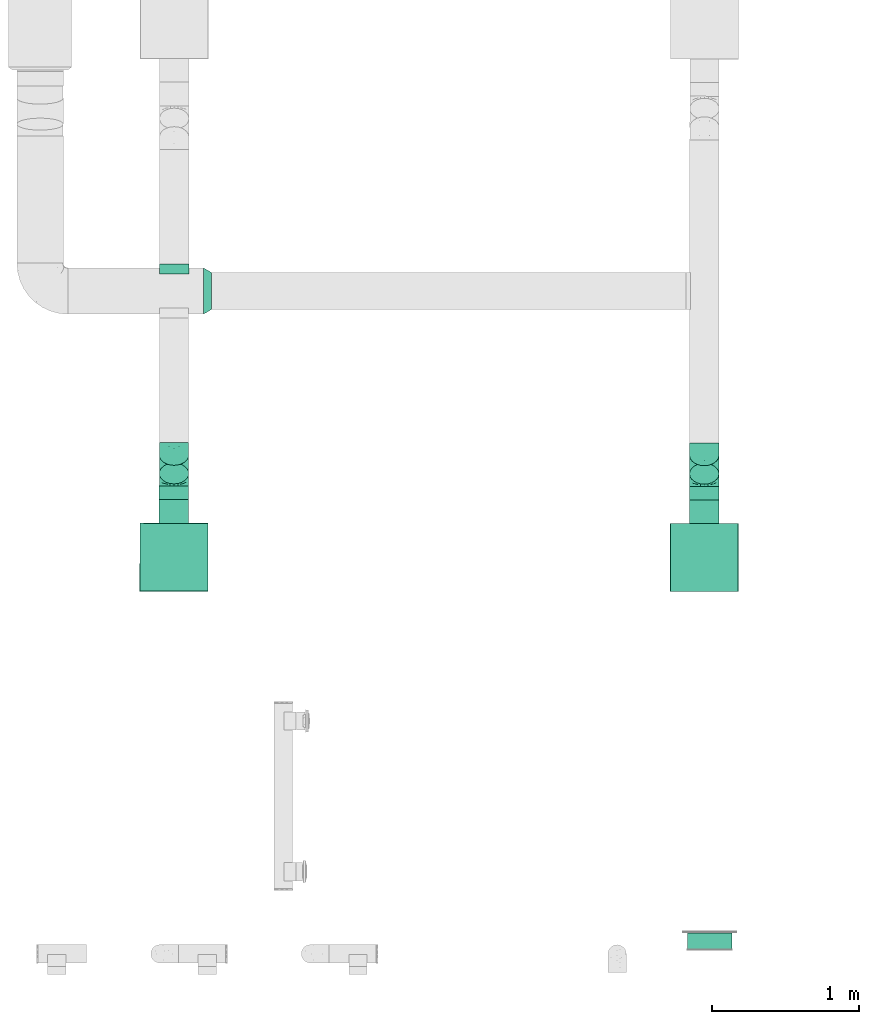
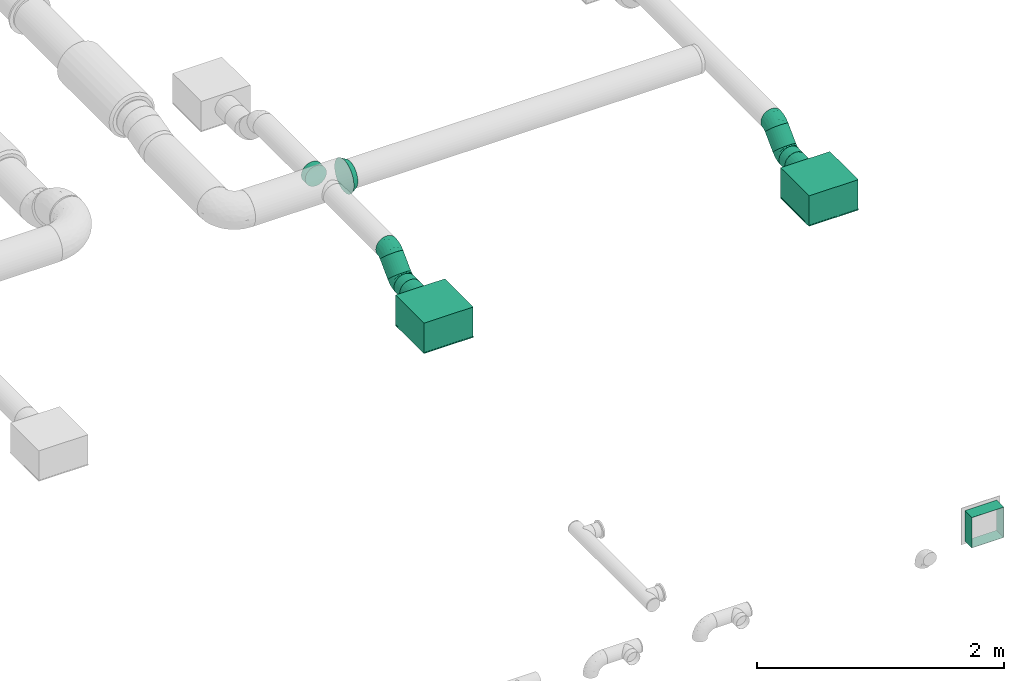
# One storey, part 14 of 63: 6 flow fittings, 5 flow segments, 2 flow terminals.
"""IFC2X3 building model written with IfcOpenShell, lengths in millimetres."""

from ifc_helpers import new_model, entity, si_unit, converted_unit, derived_unit, direction, frame, origin_with_axes, origin_2d_with_axis, place, context, subcontext, project, spatial, hollow_rectangle, hollow_circle, extrude, open_shell, surface_model, source, transform, mapped, type_object, element, save


model = new_model("IFC2X3")

# Units and contexts
model_context = context("Model", 3, precision=0.01, world=frame((0.0, 4.29681676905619e-09, 0.0)), true_north=direction((4.01073788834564e-13, 1.0)))
plan_context = context("Plan", 3, precision=0.01, world=frame((0.0, 4.29681676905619e-09, 0.0)), true_north=direction((4.01073788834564e-13, 1.0)))
body_context = subcontext(model_context, "Body", "Model", "MODEL_VIEW")
ifc_project = project(units=[converted_unit("PLANEANGLEUNIT", "DEGREE", entity("IfcPositiveLengthMeasure", 0.0174532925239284), si_unit("PLANEANGLEUNIT", "RADIAN"), dimensions=[0, 0, 0, 0, 0, 0, 0]), si_unit("AREAUNIT", "SQUARE_METRE"), si_unit("LENGTHUNIT", "METRE", prefix="MILLI"), si_unit("MASSUNIT", "GRAM", prefix="KILO"), si_unit("POWERUNIT", "WATT"), si_unit("PRESSUREUNIT", "PASCAL"), si_unit("FORCEUNIT", "NEWTON", prefix="KILO"), si_unit("ELECTRICVOLTAGEUNIT", "VOLT"), si_unit("ELECTRICCURRENTUNIT", "AMPERE"), si_unit("THERMODYNAMICTEMPERATUREUNIT", "DEGREE_CELSIUS"), si_unit("TIMEUNIT", "SECOND"), si_unit("VOLUMEUNIT", "CUBIC_METRE"), derived_unit("LINEARVELOCITYUNIT", [(si_unit("LENGTHUNIT", "METRE"), 1), (si_unit("TIMEUNIT", "SECOND"), -1)]), derived_unit("VOLUMETRICFLOWRATEUNIT", [(si_unit("VOLUMEUNIT", "CUBIC_METRE"), 1), (si_unit("TIMEUNIT", "SECOND"), -1)]), derived_unit("THERMALTRANSMITTANCEUNIT", [(si_unit("POWERUNIT", "WATT"), 1), (si_unit("THERMODYNAMICTEMPERATUREUNIT", "KELVIN"), -1), (si_unit("AREAUNIT", "SQUARE_METRE"), -1)]), derived_unit("SOUNDPRESSUREUNIT", [(si_unit("PRESSUREUNIT", "PASCAL"), 1)])], contexts=[model_context, plan_context])

# Site, building, storey
site_placement = place(None, frame((0.0, -4.29681676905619e-09, 0.0), z_axis=(0.0, 0.0, 1.0), x_axis=(1.0, 0.0, 0.0)))
site = spatial("IfcSite", under=ifc_project, at=site_placement, CompositionType="ELEMENT")
building_placement = place(site_placement, frame((0.0, 4.29681676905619e-09, 0.0), z_axis=(0.0, 0.0, 1.0), x_axis=(1.0, 0.0, 0.0)))
building = spatial("IfcBuilding", under=site, at=building_placement, Name="mc-building", CompositionType="ELEMENT")
storey_placement = place(building_placement, frame((0.0, 0.0, 210900.0), z_axis=(0.0, 0.0, 1.0), x_axis=(1.0, 0.0, 0.0)))
storey = spatial("IfcBuildingStorey", under=building, at=storey_placement, Name="Nivå F", CompositionType="ELEMENT", Elevation=210900.0)

# Flow fittings
duct_fitting_type_1 = type_object("IfcDuctFittingType", Name="magicirc_reduction_001", PredefinedType="TRANSITION")
shared_shape_1 = source(origin_with_axes(), body_context, "Body", "SurfaceModel", [
    surface_model("IfcShellBasedSurfaceModel", [(0.0, 78.75, 136.39901), (0.0, 157.5, 0.0), (0.0, 40.764, 152.13332), (0.0, -78.75, 136.39901), (0.0, -152.13332, -40.764), (0.0, -111.36932, 111.36932), (0.0, -136.39901, 78.75), (0.0, -152.13332, 40.764), (0.0, -157.5, 0.0), (0.0, 152.13332, -40.764), (0.0, 136.39901, -78.75), (0.0, 0.0, -157.5), (0.0, 111.36932, -111.36932), (0.0, 78.75, -136.39901), (0.0, 40.764, -152.13332), (0.0, -136.39901, -78.75), (0.0, -78.75, -136.39901), (0.0, -111.36932, -111.36932), (0.0, -40.764, -152.13332), (0.0, 0.0, 157.5), (56.29165, 38.62713, 118.88206), (56.29165, -38.62713, 118.88206), (56.29165, -73.47315, 101.12712), (56.29165, -101.12712, 73.47315), (56.29165, -118.88206, 38.62713), (56.29165, -125.0, 0.0), (56.29165, 0.0, 125.0), (56.29165, 118.88206, -38.62713), (56.29165, 73.47315, 101.12712), (56.29165, 101.12712, 73.47315), (56.29165, 118.88206, 38.62713), (56.29165, -118.88206, -38.62713), (56.29165, -101.12712, -73.47315), (56.29165, 0.0, -125.0), (56.29165, -73.47315, -101.12712), (56.29165, -38.62713, -118.88206), (56.29165, 125.0, 0.0), (56.29165, 73.47315, -101.12712), (56.29165, 101.12712, -73.47315), (56.29165, 38.62713, -118.88206), (0.0, 136.39901, 78.75), (0.0, 111.36932, 111.36932), (0.0, -40.764, 152.13332), (0.0, 152.13332, 40.764)], [open_shell([[[0, 1, 2]], [[3, 4, 5]], [[6, 5, 4]], [[6, 4, 7]], [[7, 4, 8]], [[1, 9, 10]], [[11, 12, 13]], [[14, 11, 13]], [[15, 16, 17]], [[16, 11, 18]], [[1, 4, 19]], [[20, 21, 22]], [[23, 24, 25]], [[23, 25, 22]], [[20, 22, 25]], [[26, 21, 20]], [[20, 27, 28]], [[28, 27, 29]], [[27, 30, 29]], [[25, 27, 20]], [[31, 32, 33]], [[34, 35, 33]], [[34, 33, 32]], [[33, 27, 25]], [[30, 27, 36]], [[33, 37, 38]], [[38, 27, 33]], [[37, 33, 39]], [[25, 31, 33]], [[1, 19, 2]], [[40, 1, 41]], [[41, 1, 0]], [[5, 19, 4]], [[19, 5, 3]], [[3, 42, 19]], [[5, 4, 6]], [[8, 7, 4]], [[1, 40, 43]], [[1, 10, 14]], [[13, 14, 10]], [[13, 10, 12]], [[1, 14, 4]], [[14, 17, 15]], [[15, 4, 14]], [[14, 16, 17]], [[18, 16, 14]], [[11, 18, 14]], [[35, 34, 16]], [[33, 35, 18]], [[18, 11, 33]], [[16, 18, 35]], [[34, 17, 16]], [[31, 25, 4]], [[32, 31, 15]], [[15, 17, 32]], [[4, 15, 31]], [[25, 8, 4]], [[32, 17, 34]], [[27, 38, 10]], [[36, 27, 9]], [[9, 1, 36]], [[10, 9, 27]], [[38, 12, 10]], [[39, 33, 14]], [[37, 39, 13]], [[13, 12, 37]], [[14, 13, 39]], [[33, 11, 14]], [[37, 12, 38]], [[20, 28, 0]], [[26, 20, 2]], [[2, 19, 26]], [[0, 2, 20]], [[28, 41, 0]], [[30, 36, 43]], [[29, 30, 40]], [[40, 41, 29]], [[43, 40, 30]], [[36, 1, 43]], [[29, 41, 28]], [[24, 23, 6]], [[25, 24, 7]], [[7, 8, 25]], [[6, 7, 24]], [[23, 5, 6]], [[21, 26, 42]], [[22, 21, 3]], [[3, 5, 22]], [[42, 3, 21]], [[26, 19, 42]], [[22, 5, 23]], [[42, 19, 2]], [[0, 42, 2]], [[0, 41, 1]], [[0, 1, 42]], [[42, 4, 3]], [[11, 1, 9]], [[10, 11, 9]], [[12, 11, 10]], [[11, 15, 4]], [[11, 16, 15]], [[4, 1, 11]], [[1, 4, 42]], [[21, 22, 25]], [[21, 25, 26]], [[20, 26, 28]], [[26, 29, 28]], [[30, 29, 27]], [[27, 29, 26]], [[26, 25, 35]], [[31, 32, 34]], [[35, 27, 26]], [[35, 31, 34]], [[39, 35, 33]], [[35, 38, 27]], [[35, 37, 38]], [[39, 37, 35]], [[25, 31, 35]], [[25, 7, 8]], [[7, 24, 6]], [[19, 42, 26]], [[3, 21, 42]], [[26, 2, 19]], [[2, 20, 0]], [[1, 43, 36]], [[40, 30, 43]], [[36, 9, 1]], [[9, 27, 10]], [[11, 14, 33]], [[13, 39, 14]], [[33, 18, 11]], [[18, 35, 16]], [[8, 4, 25]], [[15, 31, 4]], [[26, 21, 22]], [[26, 23, 20]], [[23, 26, 22]], [[23, 27, 29]], [[28, 20, 29]], [[29, 36, 30]], [[29, 20, 23]], [[29, 27, 36]], [[23, 31, 27]], [[32, 34, 35]], [[27, 31, 32]], [[33, 32, 35]], [[38, 27, 37]], [[33, 37, 27]], [[27, 32, 33]], [[31, 23, 25]], [[41, 19, 2]], [[41, 2, 0]], [[19, 40, 4]], [[40, 19, 41]], [[7, 19, 4]], [[42, 5, 3]], [[42, 19, 5]], [[5, 7, 6]], [[19, 7, 5]], [[43, 10, 40]], [[9, 10, 43]], [[40, 10, 4]], [[4, 10, 13]], [[18, 13, 14]], [[4, 17, 15]], [[17, 4, 16]], [[13, 18, 16]], [[16, 4, 13]], [[43, 1, 9]], [[13, 37, 39]], [[38, 37, 12]], [[33, 14, 39]], [[27, 10, 9]], [[37, 13, 12]], [[11, 33, 18]], [[18, 33, 35]], [[34, 16, 35]], [[15, 32, 31]], [[17, 34, 32]], [[4, 31, 25]], [[17, 32, 15]], [[31, 4, 15]], [[3, 22, 21]], [[23, 22, 5]], [[26, 42, 21]], [[24, 6, 7]], [[22, 3, 5]], [[19, 26, 2]], [[2, 26, 20]], [[28, 0, 20]], [[40, 29, 30]], [[41, 28, 29]], [[43, 30, 36]], [[41, 29, 40]], [[30, 43, 40]]])]),
])
flow_fitting_1_placement = place(storey_placement, frame((530703.45217, 445392.76929, 4131.19871999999), z_axis=(0.0, 0.0, 1.0), x_axis=(1.0, 0.0, 0.0)))
element("IfcFlowFitting", 1, at=flow_fitting_1_placement, inside=storey, type_object=duct_fitting_type_1, Name="magicirc_reduction_001", context=body_context, shape_type="MappedRepresentation", body=[
    mapped(shared_shape_1, transform((0.0, 0.0, 0.0), scale=1.0)),
])
duct_fitting_type_2 = type_object("IfcDuctFittingType", Name="magicirc_elbow_short_001", PredefinedType="BEND")
shared_shape_2 = source(origin_with_axes(), body_context, "Body", "SurfaceModel", [
    surface_model("IfcShellBasedSurfaceModel", [(-49.70563, 50.0, -86.60254), (-49.70563, 25.8819, -96.59259), (-49.70563, 70.71068, -70.71068), (-49.70563, 96.59259, -25.8819), (-49.70563, 86.60254, -50.0), (-49.70563, 86.60254, 50.0), (-49.70563, 96.59259, 25.8819), (-49.70563, 25.8819, 96.59259), (-49.70563, 50.0, 86.60254), (-49.70563, 70.71068, 70.71068), (-49.70563, -25.8819, 96.59259), (-49.70563, 0.0, 100.0), (-49.70563, 100.0, 0.0), (12.37742, -29.88175, 90.64522), (37.12404, -18.70607, 89.97421), (4.68854, -11.31914, 97.51858), (-15.97928, 38.57739, 94.78597), (-33.08073, 79.86395, 64.3352), (-38.64634, 93.30051, 41.23913), (-23.56301, 62.37217, 82.35825), (22.87885, -55.23445, 71.73393), (28.07272, 6.98114, 98.51039), (7.39001, 23.69873, 99.67584), (-26.09006, 96.38443, 50.0), (16.84592, 53.44845, 96.59259), (-33.15408, 103.44845, 25.8819), (-0.20815, 70.50252, 86.60254), (-49.70563, 0.0, -100.0), (-21.98306, 11.532, -99.67584), (4.68854, -11.31915, -97.51858), (6.95764, 23.32334, -99.68416), (-15.97928, 38.57738, -94.78597), (-0.20815, 70.50252, -86.60254), (16.84592, 53.44845, -96.59259), (60.35471, -50.93633, -55.32131), (28.49827, -69.68635, -52.39492), (22.87886, -55.23445, -71.73393), (28.07272, 6.98113, -98.51039), (-49.70565, -96.59259, -25.8819), (-49.70565, -100.0, 0.0), (-49.70565, -86.60254, -50.0), (-14.85282, 85.14719, -70.71068), (-26.09007, 96.38443, -50.0), (-33.1541, 103.44846, -25.8819), (-24.86597, -97.5535, 0.0), (-6.78576, -95.77276, 0.0), (-18.13184, -91.89202, 33.47276), (-13.02349, -39.47786, 89.97421), (-18.231, -62.02139, 76.22982), (-21.41192, 11.5723, 99.68416), (-49.70565, -86.60254, 50.0), (-49.70565, -96.59259, 25.8819), (22.49479, -82.45996, 31.38069), (50.71647, -68.4272, 35.42053), (29.12437, -69.42701, 52.3949), (13.84949, -89.51313, 0.0), (34.48473, -83.25349, 0.0), (12.37743, -29.88176, -90.64522), (-13.02349, -39.47786, -89.97421), (-42.05198, 101.52241, 0.0), (-35.56351, 105.85786, 0.0), (-38.64635, 93.30051, -41.23913), (37.12406, -18.70605, -89.97421), (1.72867, -92.12319, -18.52111), (-33.08075, 79.86395, -64.3352), (-27.44224, 60.76535, -82.35825), (-24.78683, -14.914, 98.51039), (-49.70565, -70.71068, -70.71068), (-6.65981, -78.69465, -55.32131), (-24.78683, -14.91401, -98.51039), (-49.70563, -50.0, -86.60254), (-49.70563, -25.8819, -96.59259), (-49.70563, -70.71068, 70.71068), (-49.70563, -50.0, 86.60254), (35.14719, 35.1472, -100.0), (103.44846, -33.15406, 25.8819), (96.38444, -26.09004, -50.0), (53.44846, 16.84593, -96.59259), (85.14719, -14.8528, -70.71068), (70.50253, -0.20814, -86.60254), (105.85787, -35.56347, 0.0), (103.44846, -33.15406, -25.8819), (-14.85282, 85.14719, 70.71068), (85.14719, -14.8528, 70.71068), (96.38444, -26.09004, 50.0), (70.50253, -0.20814, 86.60254), (53.44846, 16.84593, 96.59259), (35.14719, 35.1472, 100.0), (-6.6598, -78.69465, 55.32131), (42.49431, -77.9055, 18.20626), (72.51983, -62.9233, 0.0), (86.56365, -51.39784, 0.0), (63.91858, -66.36329, 18.52111), (77.79861, -52.15632, 33.47277), (60.35471, -50.93634, 55.32131), (56.74699, -30.96449, 76.22981), (53.50228, -73.08841, 0.0), (-18.13182, -91.89201, -33.47277), (77.79861, -52.15632, -33.47277), (-18.23098, -62.02139, -76.22982), (42.40177, -74.21421, -31.38069), (12.52339, -84.24729, -35.42053), (25.03951, -85.13552, -18.20627), (56.747, -30.96448, -76.22982)], [open_shell([[[0, 1, 2]], [[3, 4, 2]], [[5, 6, 7]], [[7, 8, 9]], [[5, 7, 9]], [[10, 11, 7]], [[6, 12, 3]], [[13, 14, 15]], [[8, 7, 16]], [[17, 5, 9]], [[6, 5, 18]], [[19, 8, 16]], [[13, 20, 14]], [[15, 21, 22]], [[17, 23, 18]], [[16, 22, 24]], [[25, 18, 23]], [[24, 26, 16]], [[26, 19, 16]], [[8, 19, 9]], [[19, 17, 9]], [[14, 21, 15]], [[6, 18, 25]], [[17, 18, 5]], [[27, 1, 28]], [[29, 28, 30]], [[31, 28, 1]], [[0, 31, 1]], [[32, 33, 31]], [[31, 33, 30]], [[30, 28, 31]], [[34, 35, 36]], [[30, 37, 29]], [[38, 39, 40]], [[41, 42, 43]], [[44, 45, 46]], [[47, 48, 20]], [[15, 22, 49]], [[46, 50, 51]], [[46, 51, 44]], [[52, 53, 54]], [[49, 22, 16]], [[51, 39, 44]], [[46, 55, 52]], [[15, 47, 13]], [[20, 13, 47]], [[55, 46, 45]], [[55, 56, 52]], [[57, 36, 58]], [[59, 60, 43]], [[43, 42, 61]], [[62, 57, 29]], [[45, 44, 63]], [[42, 41, 64]], [[65, 64, 41]], [[64, 61, 42]], [[55, 45, 63]], [[44, 39, 38]], [[36, 57, 62]], [[58, 29, 57]], [[15, 66, 47]], [[49, 66, 15]], [[67, 68, 40]], [[29, 69, 28]], [[58, 69, 29]], [[27, 67, 1]], [[40, 2, 1]], [[2, 40, 3]], [[70, 67, 71]], [[67, 27, 71]], [[40, 1, 67]], [[40, 39, 3]], [[39, 6, 3]], [[7, 6, 39]], [[10, 7, 39]], [[72, 73, 50]], [[51, 50, 73]], [[73, 10, 51]], [[51, 10, 39]], [[74, 75, 76]], [[41, 33, 32]], [[33, 75, 74]], [[33, 41, 75]], [[77, 78, 79]], [[77, 74, 78]], [[76, 80, 81]], [[78, 74, 76]], [[76, 75, 80]], [[41, 43, 23]], [[25, 23, 43]], [[23, 24, 41]], [[82, 26, 24]], [[82, 24, 23]], [[41, 24, 75]], [[75, 83, 84]], [[83, 75, 85]], [[75, 86, 85]], [[75, 24, 86]], [[24, 87, 86]], [[43, 60, 25]], [[88, 50, 46]], [[88, 52, 54]], [[73, 48, 47]], [[72, 50, 88]], [[66, 11, 10]], [[7, 11, 49]], [[10, 73, 47]], [[17, 19, 82]], [[16, 7, 49]], [[73, 72, 48]], [[56, 89, 52]], [[59, 6, 25]], [[90, 91, 92]], [[59, 12, 6]], [[53, 93, 94]], [[66, 49, 11]], [[88, 46, 52]], [[72, 88, 48]], [[86, 21, 14]], [[94, 84, 83]], [[85, 86, 14]], [[93, 84, 94]], [[83, 85, 95]], [[14, 95, 85]], [[93, 91, 75]], [[86, 87, 21]], [[53, 92, 93]], [[60, 59, 25]], [[87, 24, 22]], [[95, 20, 94]], [[82, 19, 26]], [[84, 93, 75]], [[20, 95, 14]], [[89, 96, 92]], [[94, 83, 95]], [[20, 48, 88]], [[82, 23, 17]], [[54, 94, 20]], [[94, 54, 53]], [[88, 54, 20]], [[47, 66, 10]], [[22, 21, 87]], [[92, 53, 89]], [[53, 52, 89]], [[96, 89, 56]], [[96, 90, 92]], [[93, 92, 91]], [[91, 80, 75]], [[78, 76, 34]], [[77, 79, 62]], [[69, 71, 27]], [[4, 61, 64]], [[32, 65, 41]], [[31, 0, 65]], [[0, 2, 65]], [[33, 74, 30]], [[61, 3, 43]], [[68, 97, 40]], [[98, 81, 91]], [[97, 44, 38]], [[99, 70, 58]], [[100, 101, 35]], [[99, 67, 70]], [[40, 97, 38]], [[101, 97, 68]], [[70, 71, 58]], [[102, 55, 63]], [[99, 36, 68]], [[56, 102, 100]], [[3, 12, 59]], [[68, 67, 99]], [[32, 31, 65]], [[34, 100, 35]], [[69, 58, 71]], [[4, 64, 2]], [[62, 29, 37]], [[36, 62, 103]], [[62, 79, 103]], [[98, 76, 81]], [[74, 77, 37]], [[98, 34, 76]], [[64, 65, 2]], [[98, 91, 90]], [[101, 63, 97]], [[100, 34, 98]], [[79, 78, 103]], [[37, 30, 74]], [[36, 103, 34]], [[43, 3, 59]], [[36, 99, 58]], [[78, 34, 103]], [[35, 68, 36]], [[97, 63, 44]], [[68, 35, 101]], [[28, 69, 27]], [[62, 37, 77]], [[63, 101, 102]], [[101, 100, 102]], [[98, 96, 100]], [[55, 102, 56]], [[3, 61, 4]], [[81, 80, 91]], [[96, 98, 90]], [[96, 56, 100]]])]),
])
for number, where, z_axis, x_axis, name in (
    (2, (530503.92149, 444118.80416, 3935.01186999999), (0.999999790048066, -0.000647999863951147, 0.0), (0.000647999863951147, 0.999999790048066, 0.0), "magicirc_elbow_short_001"),
    (3, (534103.91714, 444116.47228, 3935.01186999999), (0.999999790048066, -0.000647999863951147, 0.0), (0.000647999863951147, 0.999999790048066, 0.0), "magicirc_elbow_short_001"),
    (4, (534104.04422, 444312.66031, 4131.20000000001), (-0.999999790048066, 0.000647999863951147, -3.79470760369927e-19), (0.000458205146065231, 0.707106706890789, 0.707106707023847), "magicirc_elbow_short_001"),
    (5, (530504.09314, 444314.99222, 4131.20000000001), (-0.999999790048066, -3.79470760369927e-19, 0.000647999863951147), (0.000458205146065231, 0.707106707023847, 0.707106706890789), "magicirc_elbow_short_001"),
):
    element("IfcFlowFitting", number, at=place(storey_placement, frame(where, z_axis=z_axis, x_axis=x_axis)), inside=storey, type_object=duct_fitting_type_2, Name=name, context=body_context, shape_type="MappedRepresentation", body=[
        mapped(shared_shape_2, transform((0.0, 0.0, 0.0), scale=1.0)),
    ])
duct_fitting_type_3 = type_object("IfcDuctFittingType", Name="magicirc_tapoutlet_001", PredefinedType="CONNECTOR")
shared_shape_3 = source(origin_with_axes(), body_context, "Body", "SurfaceModel", [
    surface_model("IfcShellBasedSurfaceModel", [(25.0, 0.0, -100.0), (25.0, -50.0, -86.60254), (25.0, -25.8819, -96.59259), (25.0, -100.0, 0.0), (25.0, -96.59259, -25.8819), (25.0, -96.59259, 25.8819), (25.0, 25.8819, -96.59259), (25.0, 100.0, 0.0), (25.0, 50.0, -86.60254), (25.0, 70.71068, -70.71068), (25.0, 86.60254, -50.0), (25.0, -70.71068, -70.71068), (25.0, -86.60254, -50.0), (25.0, 96.59259, -25.8819), (25.0, 96.59259, 25.8819), (25.0, 86.60254, 50.0), (25.0, 70.71068, 70.71068), (25.0, 25.8819, 96.59259), (25.0, 50.0, 86.60254), (25.0, -25.8819, 96.59259), (25.0, -70.71068, 70.71068), (25.0, -86.60254, 50.0), (25.0, -50.0, 86.60254), (25.0, 0.0, 100.0), (0.0, 0.0, 100.0), (0.0, 25.8819, 96.59259), (0.0, 50.0, 86.60254), (0.0, 70.71068, 70.71068), (0.0, 86.60254, 50.0), (0.0, 96.59259, 25.8819), (0.0, 100.0, 0.0), (0.0, 96.59259, -25.8819), (0.0, 86.60254, -50.0), (0.0, 70.71068, -70.71068), (0.0, 25.8819, -96.59259), (0.0, 50.0, -86.60254), (0.0, 0.0, -100.0), (0.0, -25.8819, -96.59259), (0.0, -50.0, -86.60254), (0.0, -70.71068, -70.71068), (0.0, -86.60254, -50.0), (0.0, -96.59259, -25.8819), (0.0, -100.0, 0.0), (0.0, -96.59259, 25.8819), (0.0, -86.60254, 50.0), (0.0, -70.71068, 70.71068), (0.0, -50.0, 86.60254), (0.0, -25.8819, 96.59259), (-41.9151, 0.0, -100.0), (-41.9151, -25.8819, -96.59259), (-41.9151, 25.8819, -96.59259), (-41.9151, 96.59259, 25.8819), (-41.9151, 50.0, -86.60254), (-41.9151, 86.60254, -50.0), (-41.9151, 70.71068, -70.71068), (-41.9151, -100.0, 0.0), (-41.9151, -96.59259, 25.8819), (-41.9151, -70.71068, -70.71068), (-41.9151, -50.0, -86.60254), (-41.9151, -96.59259, -25.8819), (-41.9151, -86.60254, -50.0), (-41.9151, 96.59259, -25.8819), (-41.9151, 86.60254, 50.0), (-41.9151, 70.71068, 70.71068), (-41.9151, 50.0, 86.60254), (-41.9151, 25.8819, 96.59259), (-41.9151, 0.0, 100.0), (-41.9151, -86.60254, 50.0), (-41.9151, -70.71068, 70.71068), (-41.9151, -25.8819, 96.59259), (-41.9151, -50.0, 86.60254), (-41.9151, 100.0, 0.0)], [open_shell([[[0, 1, 2]], [[3, 4, 5]], [[6, 7, 0]], [[8, 7, 6]], [[7, 9, 10]], [[7, 8, 9]], [[11, 0, 5]], [[0, 11, 1]], [[12, 5, 4]], [[5, 12, 11]], [[7, 10, 13]], [[14, 15, 0]], [[15, 16, 0]], [[17, 0, 18]], [[0, 16, 18]], [[0, 17, 19]], [[0, 20, 21]], [[5, 0, 21]], [[0, 22, 20]], [[19, 22, 0]], [[17, 23, 19]], [[14, 0, 7]], [[24, 23, 17]], [[25, 17, 18]], [[24, 17, 25]], [[26, 16, 27]], [[26, 25, 18]], [[16, 26, 18]], [[28, 15, 14]], [[29, 14, 7]], [[27, 15, 28]], [[29, 28, 14]], [[30, 29, 7]], [[15, 27, 16]], [[30, 7, 13]], [[31, 13, 10]], [[30, 13, 31]], [[32, 9, 33]], [[32, 31, 10]], [[9, 32, 10]], [[6, 0, 34]], [[8, 6, 35]], [[33, 8, 35]], [[36, 34, 0]], [[6, 34, 35]], [[8, 33, 9]], [[36, 0, 2]], [[37, 2, 1]], [[36, 2, 37]], [[38, 11, 39]], [[38, 37, 1]], [[11, 38, 1]], [[40, 12, 4]], [[41, 4, 3]], [[39, 12, 40]], [[41, 40, 4]], [[42, 41, 3]], [[12, 39, 11]], [[42, 3, 5]], [[43, 5, 21]], [[42, 5, 43]], [[44, 20, 45]], [[44, 43, 21]], [[20, 44, 21]], [[46, 22, 19]], [[47, 19, 23]], [[45, 22, 46]], [[47, 46, 19]], [[24, 47, 23]], [[22, 45, 20]], [[15, 0, 14]], [[0, 15, 18]], [[18, 15, 16]], [[19, 0, 17]], [[0, 21, 5]], [[20, 21, 0]], [[20, 0, 22]], [[48, 49, 50]], [[50, 51, 52]], [[53, 54, 51]], [[51, 54, 52]], [[50, 55, 56]], [[57, 55, 58]], [[50, 49, 58]], [[59, 55, 60]], [[57, 60, 55]], [[58, 55, 50]], [[61, 53, 51]], [[62, 51, 50]], [[50, 63, 62]], [[64, 50, 65]], [[64, 63, 50]], [[66, 65, 50]], [[67, 68, 50]], [[50, 56, 67]], [[69, 66, 70]], [[50, 68, 70]], [[70, 66, 50]], [[71, 61, 51]], [[66, 24, 25]], [[65, 25, 26]], [[66, 25, 65]], [[64, 27, 63]], [[64, 65, 26]], [[27, 64, 26]], [[62, 28, 29]], [[51, 29, 30]], [[63, 28, 62]], [[51, 62, 29]], [[71, 51, 30]], [[28, 63, 27]], [[71, 30, 31]], [[61, 31, 32]], [[71, 31, 61]], [[53, 33, 54]], [[53, 61, 32]], [[33, 53, 32]], [[34, 36, 48]], [[35, 34, 52]], [[52, 54, 35]], [[48, 50, 34]], [[52, 34, 50]], [[35, 54, 33]], [[48, 36, 37]], [[49, 37, 38]], [[48, 37, 49]], [[58, 39, 57]], [[58, 49, 38]], [[39, 58, 38]], [[60, 40, 41]], [[59, 41, 42]], [[57, 40, 60]], [[59, 60, 41]], [[55, 59, 42]], [[40, 57, 39]], [[55, 42, 43]], [[56, 43, 44]], [[55, 43, 56]], [[67, 45, 68]], [[67, 56, 44]], [[45, 67, 44]], [[70, 46, 47]], [[69, 47, 24]], [[68, 46, 70]], [[69, 70, 47]], [[66, 69, 24]], [[46, 68, 45]]])]),
])
flow_fitting_2_placement = place(storey_placement, frame((530505.35723, 445550.26929, 4131.20000000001), z_axis=(0.0, 0.0, 1.0), x_axis=(0.0, 1.0, 0.0)))
element("IfcFlowFitting", 6, at=flow_fitting_2_placement, inside=storey, type_object=duct_fitting_type_3, Name="magicirc_tapoutlet_001", context=body_context, shape_type="MappedRepresentation", body=[
    mapped(shared_shape_3, transform((0.0, 0.0, 0.0), scale=1.0)),
])

# Flow segments
duct_segment_type_1 = type_object("IfcDuctSegmentType", Name="KK002T - Rektangulære, Forsinket stål", PredefinedType="RIGIDSEGMENT")
shared_shape_4 = source(origin_with_axes(), body_context, "Body", "SweptSolid", [
    extrude(hollow_rectangle(XDim=300.0, YDim=300.0, WallThickness=2.0, at=origin_2d_with_axis()), frame((0.0, 0.0, 0.0), z_axis=(1.0, 0.0, 0.0), x_axis=(0.0, 1.0, 0.0)), (0.0, 0.0, 1.0), 115.0),
])
flow_segment_placement = place(storey_placement, frame((534141.14447, 440919.96689, 2163.0), z_axis=(0.0, 0.0, 1.0), x_axis=(0.0, 1.0, 0.0)))
element("IfcFlowSegment", 7, at=flow_segment_placement, inside=storey, type_object=duct_segment_type_1, Name="KK002T - Rektangulære, Forsinket stål", context=body_context, shape_type="MappedRepresentation", body=[
    mapped(shared_shape_4, transform((0.0, 0.0, 0.0), scale=1.0)),
])
duct_segment_type_2 = type_object("IfcDuctSegmentType", Name="KK002T - Spiro kanaler, Forsinket stål, korte bend", PredefinedType="RIGIDSEGMENT")
shared_shape_5 = source(origin_with_axes(), body_context, "Body", "SweptSolid", [
    extrude(hollow_circle(Radius=100.0, WallThickness=2.0, at=origin_2d_with_axis()), frame((0.0, 0.0, 0.0), z_axis=(1.0, 0.0, 0.0), x_axis=(0.0, 1.0, 0.0)), (0.0, 0.0, 1.0), 178.0),
])
for number, where, z_axis, x_axis in (
    (8, (530503.98882, 444153.95134, 3970.15904), (-0.00045799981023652, -0.707106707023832, 0.707106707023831), (0.000457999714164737, 0.707106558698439, 0.707106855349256)),
    (9, (534103.9399, 444151.61946, 3970.15906999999), (-0.00045799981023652, -0.707106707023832, 0.707106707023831), (0.000457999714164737, 0.707106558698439, 0.707106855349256)),
):
    element("IfcFlowSegment", number, at=place(storey_placement, frame(where, z_axis=z_axis, x_axis=x_axis)), inside=storey, type_object=duct_segment_type_2, Name="KK002T - Spiro kanaler, Forsinket stål, korte bend", context=body_context, shape_type="MappedRepresentation", body=[
        mapped(shared_shape_5, transform((0.0, 0.0, 0.0), scale=1.0)),
    ])
shared_shape_6 = source(origin_with_axes(), body_context, "Body", "SweptSolid", [
    extrude(hollow_circle(Radius=100.0, WallThickness=2.0, at=origin_2d_with_axis()), frame((0.0, 0.0, 0.0), z_axis=(1.0, 0.0, 0.0), x_axis=(0.0, 1.0, 0.0)), (0.0, 0.0, 1.0), 93.1),
])
for number, where, z_axis, x_axis in (
    (10, (530503.82896, 443975.95324, 3935.01186999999), (0.0, 0.0, 1.0), (0.000647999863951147, 0.999999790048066, 0.0)),
    (11, (534103.82461, 443973.62136, 3935.01186999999), (0.0, 0.0, 1.0), (0.000647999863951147, 0.999999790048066, 0.0)),
):
    element("IfcFlowSegment", number, at=place(storey_placement, frame(where, z_axis=z_axis, x_axis=x_axis)), inside=storey, type_object=duct_segment_type_2, Name="KK002T - Spiro kanaler, Forsinket stål, korte bend", context=body_context, shape_type="MappedRepresentation", body=[
        mapped(shared_shape_6, transform((0.0, 0.0, 0.0), scale=1.0)),
    ])

# Flow terminals
air_terminal_type = type_object("IfcAirTerminalType", Name="NS19-H-S-2-200 - 4-way", PredefinedType="NOTDEFINED")
shared_shape_7 = source(origin_with_axes(), body_context, "Body", "SurfaceModel", [
    surface_model("IfcShellBasedSurfaceModel", [(-231.99999, 231.99999, 0.0), (-231.99999, -231.99999, 0.0), (231.99999, -231.99999, 0.0), (231.99999, 231.99999, 0.0), (231.99999, 231.99999, -10.0), (231.99999, -231.99999, -10.0), (-231.99999, -231.99999, -10.0), (-231.99999, 231.99999, -10.0), (-230.0, 230.0, 289.99999), (-230.0, -230.0, 289.99999), (230.0, -230.0, 289.99999), (230.0, 230.0, 289.99999), (230.0, 230.0, 0.0), (230.0, -230.0, 0.0), (-230.0, -230.0, 0.0), (-230.0, 230.0, 0.0), (-230.0, 50.0, 78.39746), (-230.0, 70.71068, 94.28932), (-230.0, 49.9, 78.57067), (-230.0, 25.83014, 68.6006), (-230.0, 0.0, 65.2), (-230.0, 25.8819, 68.40742), (-230.0, 0.0, 65.0), (-230.0, 70.56926, 94.43075), (-230.0, 96.59259, 139.1181), (-230.0, 99.8, 164.99999), (-230.0, 96.39939, 139.16986), (-230.0, 100.0, 164.99999), (-230.0, 86.60254, 115.0), (-230.0, 86.42934, 115.1), (-230.0, -25.83014, 68.6006), (-230.0, -25.8819, 68.40742), (-230.0, -49.9, 78.57067), (-230.0, -70.71068, 94.28932), (-230.0, -50.0, 78.39746), (-230.0, -70.56926, 94.43075), (-230.0, -86.42934, 115.1), (-230.0, -86.60254, 115.0), (-230.0, -96.39939, 139.16986), (-230.0, -96.59259, 139.1181), (-230.0, -99.8, 164.99999), (-230.0, -100.0, 164.99999), (-230.0, 96.59259, 190.8819), (-230.0, 96.39939, 190.83014), (-230.0, 86.42934, 214.9), (-230.0, 86.60254, 214.99999), (-230.0, 70.56926, 235.56925), (-230.0, 70.71068, 235.71069), (-230.0, 50.0, 251.60254), (-230.0, 49.9, 251.42933), (-230.0, 25.83014, 261.3994), (-230.0, 25.8819, 261.59259), (-230.0, 0.0, 264.80001), (-230.0, 0.0, 264.99999), (-230.0, -86.60254, 214.99999), (-230.0, -86.42934, 214.9), (-230.0, -70.71068, 235.71069), (-230.0, -70.56926, 235.56925), (-230.0, -96.59259, 190.8819), (-230.0, -96.39939, 190.83014), (-230.0, -25.83014, 261.3994), (-230.0, -25.8819, 261.59259), (-230.0, -49.9, 251.42933), (-230.0, -50.0, 251.60254), (-390.0, 50.0, 251.60254), (-390.0, 70.71068, 235.71069), (-390.0, 49.9, 251.42933), (-390.0, 25.83014, 261.3994), (-390.0, 0.0, 264.80001), (-390.0, 25.8819, 261.59259), (-390.0, 0.0, 264.99999), (-390.0, 70.56926, 235.56925), (-390.0, 96.59259, 190.8819), (-390.0, 99.8, 164.99999), (-390.0, 96.39939, 190.83014), (-390.0, 100.0, 164.99999), (-390.0, 86.60254, 214.99999), (-390.0, 86.42934, 214.9), (-390.0, -25.83014, 261.3994), (-390.0, -25.8819, 261.59259), (-390.0, -49.9, 251.42933), (-390.0, -70.71068, 235.71069), (-390.0, -50.0, 251.60254), (-390.0, -70.56926, 235.56925), (-390.0, -86.42934, 214.9), (-390.0, -86.60254, 214.99999), (-390.0, -96.39939, 190.83014), (-390.0, -96.59259, 190.8819), (-390.0, -99.8, 164.99999), (-390.0, -100.0, 164.99999), (-390.0, 96.59259, 139.1181), (-390.0, 96.39939, 139.16986), (-390.0, 86.42934, 115.1), (-390.0, 86.60254, 115.0), (-390.0, 70.56926, 94.43075), (-390.0, 70.71068, 94.28932), (-390.0, 50.0, 78.39746), (-390.0, 49.9, 78.57067), (-390.0, 25.83014, 68.6006), (-390.0, 25.8819, 68.40742), (-390.0, 0.0, 65.2), (-390.0, 0.0, 65.0), (-390.0, -86.60254, 115.0), (-390.0, -86.42934, 115.1), (-390.0, -70.71068, 94.28932), (-390.0, -70.56926, 94.43075), (-390.0, -96.59259, 139.1181), (-390.0, -96.39939, 139.16986), (-390.0, -25.83014, 68.6006), (-390.0, -25.8819, 68.40742), (-390.0, -49.9, 78.57067), (-390.0, -50.0, 78.39746)], [open_shell([[[0, 1, 2]], [[2, 3, 0]], [[4, 5, 6]], [[6, 7, 4]], [[2, 1, 6]], [[6, 5, 2]], [[3, 2, 5]], [[5, 4, 3]], [[0, 3, 4]], [[4, 7, 0]], [[1, 0, 7]], [[7, 6, 1]], [[8, 9, 10]], [[10, 11, 8]], [[12, 13, 14]], [[14, 15, 12]], [[10, 9, 13]], [[14, 13, 9]], [[11, 10, 12]], [[13, 12, 10]], [[8, 11, 15]], [[12, 15, 11]], [[9, 8, 14]], [[15, 14, 8]], [[16, 17, 18]], [[16, 18, 19]], [[20, 21, 19]], [[21, 20, 22]], [[19, 21, 16]], [[18, 17, 23]], [[24, 25, 26]], [[25, 24, 27]], [[24, 26, 28]], [[23, 28, 29]], [[28, 23, 17]], [[29, 28, 26]], [[22, 30, 31]], [[31, 30, 32]], [[33, 34, 35]], [[32, 34, 31]], [[32, 35, 34]], [[22, 20, 30]], [[36, 37, 33]], [[37, 36, 38]], [[36, 33, 35]], [[39, 38, 40]], [[38, 39, 37]], [[39, 40, 41]], [[27, 42, 43]], [[43, 42, 44]], [[44, 45, 46]], [[45, 44, 42]], [[46, 45, 47]], [[47, 48, 49]], [[49, 48, 50]], [[50, 51, 52]], [[51, 50, 48]], [[52, 51, 53]], [[49, 46, 47]], [[54, 55, 56]], [[56, 55, 57]], [[55, 54, 58]], [[41, 59, 58]], [[58, 59, 55]], [[41, 40, 59]], [[60, 53, 61]], [[60, 61, 62]], [[57, 63, 56]], [[57, 62, 63]], [[63, 62, 61]], [[52, 53, 60]], [[43, 25, 27]], [[64, 65, 66]], [[64, 66, 67]], [[68, 69, 67]], [[69, 68, 70]], [[67, 69, 64]], [[66, 65, 71]], [[72, 73, 74]], [[73, 72, 75]], [[72, 74, 76]], [[71, 76, 77]], [[76, 71, 65]], [[77, 76, 74]], [[70, 78, 79]], [[79, 78, 80]], [[81, 82, 83]], [[80, 82, 79]], [[80, 83, 82]], [[70, 68, 78]], [[84, 85, 81]], [[85, 84, 86]], [[84, 81, 83]], [[87, 86, 88]], [[86, 87, 85]], [[87, 88, 89]], [[75, 90, 91]], [[91, 90, 92]], [[92, 93, 94]], [[93, 92, 90]], [[94, 93, 95]], [[95, 96, 97]], [[97, 96, 98]], [[98, 99, 100]], [[99, 98, 96]], [[100, 99, 101]], [[97, 94, 95]], [[102, 103, 104]], [[104, 103, 105]], [[103, 102, 106]], [[89, 107, 106]], [[106, 107, 103]], [[89, 88, 107]], [[108, 101, 109]], [[108, 109, 110]], [[105, 111, 104]], [[105, 110, 111]], [[111, 110, 109]], [[100, 101, 108]], [[91, 73, 75]], [[39, 106, 102]], [[104, 37, 102]], [[34, 111, 109]], [[104, 111, 33]], [[31, 109, 101]], [[106, 41, 89]], [[106, 39, 41]], [[102, 37, 39]], [[104, 33, 37]], [[34, 33, 111]], [[109, 31, 34]], [[101, 22, 31]], [[21, 99, 96]], [[95, 16, 96]], [[28, 93, 90]], [[95, 93, 17]], [[24, 90, 75]], [[99, 21, 22]], [[96, 16, 21]], [[95, 17, 16]], [[93, 28, 17]], [[24, 28, 90]], [[75, 27, 24]], [[99, 22, 101]], [[75, 72, 42]], [[48, 64, 69]], [[64, 47, 65]], [[51, 69, 70]], [[72, 45, 42]], [[42, 27, 75]], [[76, 47, 45]], [[76, 65, 47]], [[47, 64, 48]], [[69, 51, 48]], [[76, 45, 72]], [[70, 53, 51]], [[61, 79, 82]], [[81, 63, 82]], [[54, 85, 87]], [[81, 85, 56]], [[58, 87, 89]], [[79, 61, 53]], [[82, 63, 61]], [[81, 56, 63]], [[85, 54, 56]], [[58, 54, 87]], [[89, 41, 58]], [[79, 53, 70]], [[103, 107, 38]], [[103, 36, 105]], [[108, 110, 32]], [[35, 110, 105]], [[100, 108, 30]], [[88, 40, 107]], [[40, 38, 107]], [[38, 36, 103]], [[36, 35, 105]], [[110, 35, 32]], [[32, 30, 108]], [[30, 20, 100]], [[97, 98, 19]], [[97, 18, 94]], [[91, 92, 29]], [[23, 92, 94]], [[73, 91, 26]], [[20, 19, 98]], [[19, 18, 97]], [[18, 23, 94]], [[23, 29, 92]], [[91, 29, 26]], [[26, 25, 73]], [[100, 20, 98]], [[43, 74, 73]], [[67, 66, 49]], [[71, 46, 66]], [[68, 67, 50]], [[43, 44, 74]], [[73, 25, 43]], [[44, 46, 77]], [[46, 71, 77]], [[49, 66, 46]], [[49, 50, 67]], [[74, 44, 77]], [[50, 52, 68]], [[80, 78, 60]], [[80, 62, 83]], [[86, 84, 55]], [[57, 84, 83]], [[88, 86, 59]], [[52, 60, 78]], [[60, 62, 80]], [[62, 57, 83]], [[57, 55, 84]], [[86, 55, 59]], [[59, 40, 88]], [[68, 52, 78]]])]),
])
for number, where, z_axis, x_axis in (
    (12, (530503.57632, 443585.92525, 3770.0), (0.0, 0.0, 1.0), (-0.000647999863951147, -0.999999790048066, 0.0)),
    (13, (534103.57197, 443583.59337, 3770.0), (0.0, 0.0, 1.0), (-0.000647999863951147, -0.999999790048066, 0.0)),
):
    element("IfcFlowTerminal", number, at=place(storey_placement, frame(where, z_axis=z_axis, x_axis=x_axis)), inside=storey, type_object=air_terminal_type, Name="NS19-H-S-2-200 - 4-way", context=body_context, shape_type="MappedRepresentation", body=[
        mapped(shared_shape_7, transform((0.0, 0.0, 0.0), scale=1.0)),
    ])

save(model, "model.ifc")
